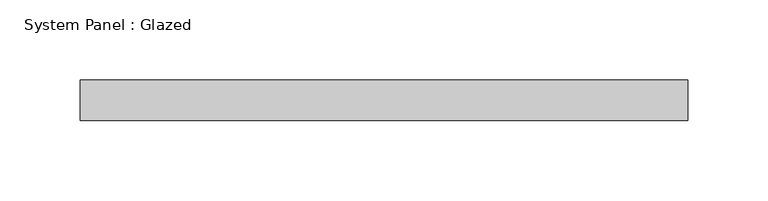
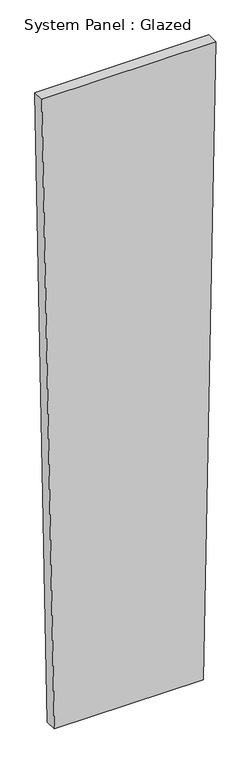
"""IFC4 building model written with IfcOpenShell, lengths in millimetres: plate geometry, System Panel : Glazed."""

from ifc_helpers import new_model, si_unit, frame, origin, place, context, project, spatial, polyline, outline, extrude, source, transform, mapped, element, save


def system_panel_glazed_3a6c43c9(model_context):
    return source(origin(), model_context, "Body", "SweptSolid", [
        extrude(outline(polyline([(0.0, -162.2283374), (0.0, 162.2283374), (1460.2321911, 189.6071245), (1460.2321911, -189.6071245), (0.0, -162.2283374)])), frame((0.0, 19.05, 0.0), z_axis=(0.0, 1.0, 0.0), x_axis=(0.0, 0.0, 1.0)), (0.0, 0.0, 1.0), 25.4),
    ])


if __name__ == "__main__":
    model = new_model("IFC4")
    model_context = context("Model", 3, world=origin())
    ifc_project = project(units=[si_unit("LENGTHUNIT", "METRE", prefix="MILLI")], contexts=[model_context])
    site = spatial("IfcSite", under=ifc_project)
    building = spatial("IfcBuilding", under=site)
    placement = place(None, origin())
    system_panel_glazed_shape = system_panel_glazed_3a6c43c9(model_context)
    element("IfcPlate", 1, ObjectType="System Panel : Glazed", at=placement, inside=building, context=model_context, shape_type="MappedRepresentation", body=[
        mapped(system_panel_glazed_shape, transform((0.0, 0.0, 0.0), x_axis=(1.0, 0.0, 0.0), y_axis=(0.0, 1.0, 0.0), z_axis=(0.0, 0.0, 1.0))),
    ])
    save(model, "model.ifc")
